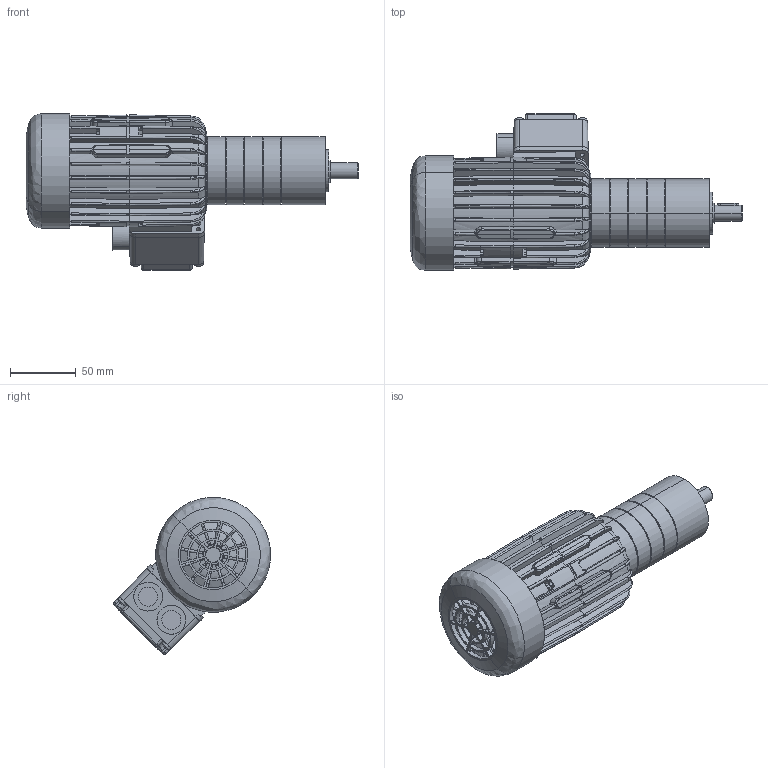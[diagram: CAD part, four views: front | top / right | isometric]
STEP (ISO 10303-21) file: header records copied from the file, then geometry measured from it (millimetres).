
FILE_DESCRIPTION (( 'STEP AP203' ), '1' );
FILE_NAME ('DG7150-2_+_PM52-4etages.STEP', '2013-10-15T07:36:00', ( '' ), ( '' ), 'SwSTEP 2.0', 'SolidWorks 2013', '' );
FILE_SCHEMA (( 'CONFIG_CONTROL_DESIGN' ));
Length unit declared in the file: millimetre
Products named in the file (18): 8006405_DICHTRING; 8006231_LAGERFLANSCH; DG7150-2_+_PM52-4etages; 8006230_ZAHNKRANZ_Z46; D625-6001-2RS; SCHRAUBE_1241978_1; DIN998_PS_12X18X1; D912_M4X12; 8101171_ABTRIEB_ROHTEIL_AF0; GK2152_POS3_6_ANLAUFSCHEIBE_1ST; GK2152_POS31_2_LAGERBOLZEN; 8014926_MOTORRITZEL_Z17; 8102168_ABTRIEB_LK1_KPL; PM52 pour 1.13.063 - 1227633; D471_12X1_5; adapt d662 dg7150_Part; 4X4X16_D6885A; Dg7150-2
Assembly tree (34 placements, depth 4):
  DG7150-2_+_PM52-4etages
    PM52 pour 1.13.063 - 1227633
      8006231_LAGERFLANSCH
      D625-6001-2RS  x2
      DIN998_PS_12X18X1  x2
      8102168_ABTRIEB_LK1_KPL
        8101171_ABTRIEB_ROHTEIL_AF0
        GK2152_POS31_2_LAGERBOLZEN  x3
      D471_12X1_5
      4X4X16_D6885A
      8006405_DICHTRING  x2
      8006230_ZAHNKRANZ_Z46
      SCHRAUBE_1241978_1  x4
      D912_M4X12  x4
      GK2152_POS3_6_ANLAUFSCHEIBE_1ST
      8014926_MOTORRITZEL_Z17
    adapt d662 dg7150_Part
    Dg7150-2
    8006230_ZAHNKRANZ_Z46  x3
    8006405_DICHTRING  x3
Bounding box: 252.85 x 119.43 x 119.43 mm (x, y, z)
Volume: 72598.2 mm3; surface area: 190322.8 mm2
Topology: 25 solids, 65 shells, 2848 faces, 8329 edges, 5589 vertices
Faces by surface type: cylinder 1098, plane 923, cone 552, bspline 275
Entity records: 72925 total; most frequent: CARTESIAN_POINT 27539, ORIENTED_EDGE 8987, DIRECTION 8472, EDGE_CURVE 5061, VERTEX_POINT 3426, AXIS2_PLACEMENT_3D 3208, VECTOR 2056, LINE 2056
